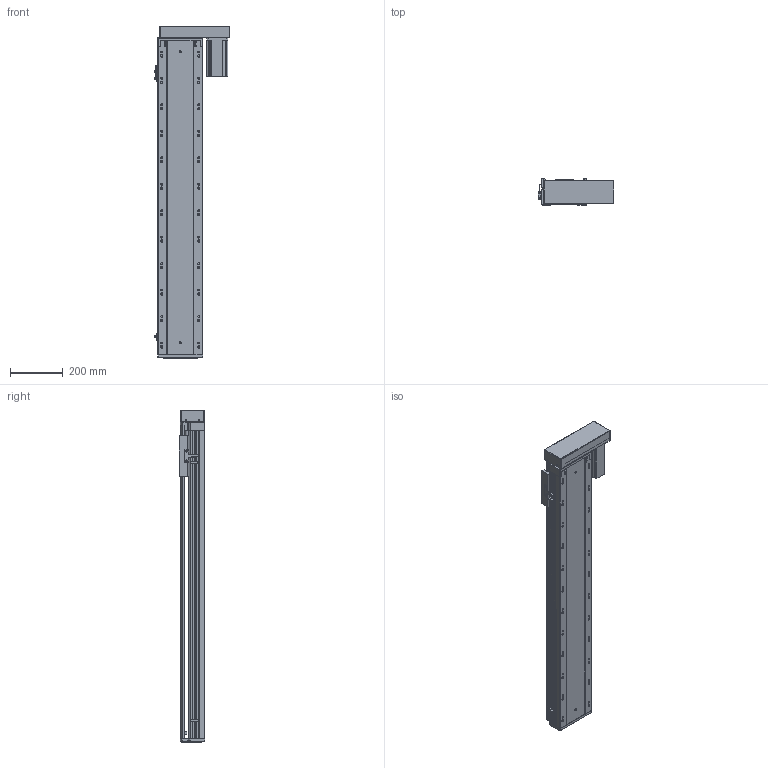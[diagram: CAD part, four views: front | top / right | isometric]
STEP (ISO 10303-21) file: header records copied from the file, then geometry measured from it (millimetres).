
FILE_DESCRIPTION (( 'STEP AP203' ), '1' );
FILE_NAME ('RY170-L2510-300-RK.SLDASM_950.step', '2021-03-12T09:19:57', ( '盈信电脑' ), ( '东莞市道滘镇水果街19号' ), 'SwSTEP 2.0', 'SolidWorks 2012', '' );
FILE_SCHEMA (( 'CONFIG_CONTROL_DESIGN' ));
Length unit declared in the file: millimetre
Products named in the file (14): RY170外置感应片(200共用）; 覜茼ん672; RY170-L2510-300-RK.SLDASM_950; RY170酘衵殏萇儂欶750W; 怢湛750W萇儂ㄗ80遺ㄘ; RY170-酘衵殏750W萇儂傷; RY170-左右折电机安装板750W; 滅袉蝶18-20; RY170转折电机端支撑座(7004); RY170綴裔啣; 滅袉蝶18-10; RY170-300倰第菁釱-RK_950; 改造-RY170铝滑块25丝杆螺母; RY170-300倰第裔啣-RK_950
Assembly tree (15 placements, depth 3):
  RY170-L2510-300-RK.SLDASM_950
    RY170-300倰第菁釱-RK_950
    改造-RY170铝滑块25丝杆螺母
    RY170-300倰第裔啣-RK_950
    RY170綴裔啣
    滅袉蝶18-20
    滅袉蝶18-10
    RY170转折电机端支撑座(7004)
    RY170-酘衵殏750W萇儂傷
      RY170-左右折电机安装板750W
      RY170酘衵殏萇儂欶750W
      怢湛750W萇儂ㄗ80遺ㄘ
    覜茼ん672  x3
    RY170外置感应片(200共用）
Bounding box: 286.2 x 97 x 1255 mm (x, y, z)
Volume: 6978297.5 mm3; surface area: 2183137.7 mm2
Topology: 14 solids, 14 shells, 2323 faces, 6778 edges, 4362 vertices
Faces by surface type: plane 1096, cylinder 1026, cone 182, bspline 19
Entity records: 77419 total; most frequent: CARTESIAN_POINT 19580, ORIENTED_EDGE 12284, DIRECTION 11132, EDGE_CURVE 6142, VERTEX_POINT 4042, AXIS2_PLACEMENT_3D 3752, LINE 3628, VECTOR 3628
